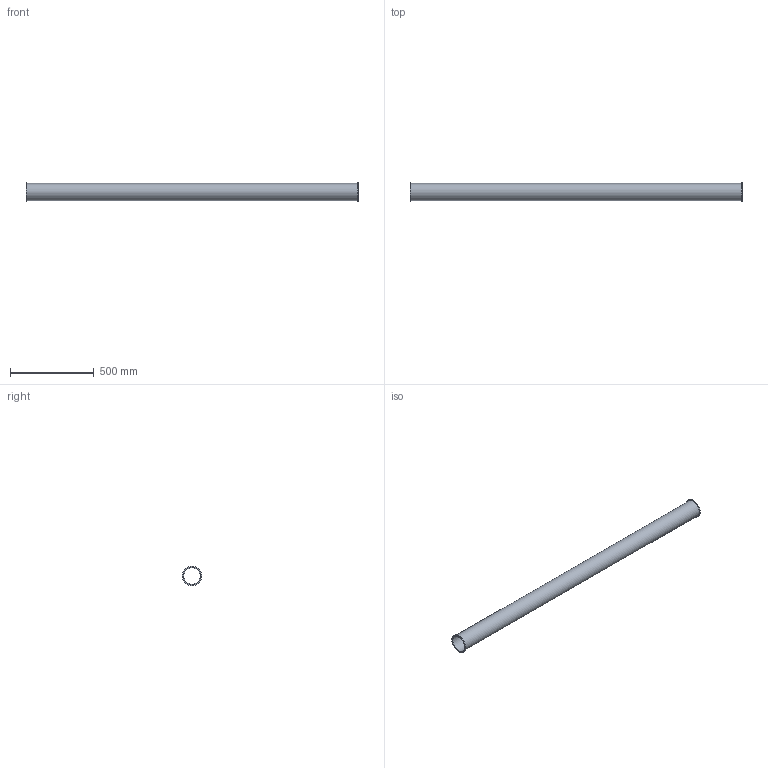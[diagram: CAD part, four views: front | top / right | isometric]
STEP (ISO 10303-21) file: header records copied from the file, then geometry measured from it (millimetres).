
FILE_DESCRIPTION((''),'2;1');
FILE_NAME('U:\Wolfgang\Marcel-3D\fertig\Kapitel 1\1021001.stp','2010-05-31T11:04:21',('TK2'),(''),'Autodesk Inventor 2010','Autodesk Inventor 2010','');
FILE_SCHEMA(('AUTOMOTIVE_DESIGN { 1 0 10303 214 1 1 1 1 }'));
Length unit declared in the file: millimetre
Products named in the file (1): 1021001
Bounding box: 1986 x 115 x 115 mm (x, y, z)
Volume: 1268537.4 mm3; surface area: 1269957.4 mm2
Topology: 1 solids, 1 shells, 8 faces, 12 edges, 8 vertices
Faces by surface type: cylinder 4, plane 4
Full cylindrical faces by diameter (mm): 99 x1, 103 x1, 115 x2
Entity records: 194 total; most frequent: DIRECTION 34, CARTESIAN_POINT 25, AXIS2_PLACEMENT_3D 17, ORIENTED_EDGE 16, EDGE_LOOP 16, VERTEX_POINT 8, CIRCLE 8, EDGE_CURVE 8
